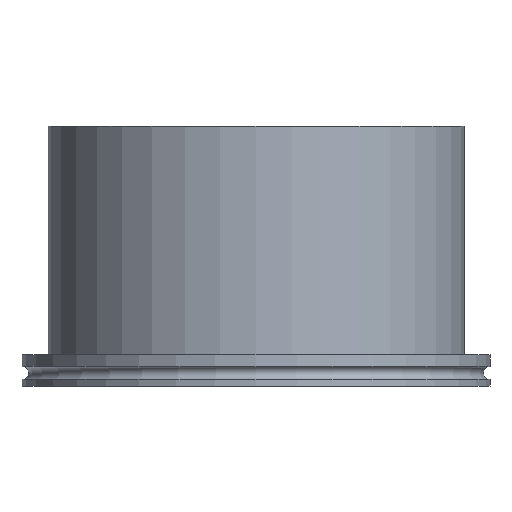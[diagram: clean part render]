
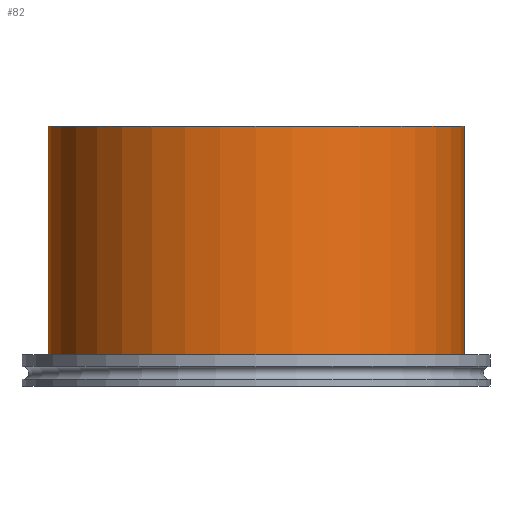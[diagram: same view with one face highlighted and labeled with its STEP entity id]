
A CAD part, front view. The second image highlights one B-rep face of the part: STEP entity #82.
In plain terms, the highlighted cylindrical face has radius 80 mm (diameter 160 mm), a full revolution.
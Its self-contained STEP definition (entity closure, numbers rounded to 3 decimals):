
#82 = ADVANCED_FACE( '', ( #150, #151 ), #152, .T. );
#150 = FACE_OUTER_BOUND( '', #228, .T. );
#151 = FACE_OUTER_BOUND( '', #229, .T. );
#152 = CYLINDRICAL_SURFACE( '', #230, 80. );
#228 = EDGE_LOOP( '', ( #294 ) );
#229 = EDGE_LOOP( '', ( #295 ) );
#230 = AXIS2_PLACEMENT_3D( '', #296, #297, #298 );
#294 = ORIENTED_EDGE( '', *, *, #391, .T. );
#295 = ORIENTED_EDGE( '', *, *, #392, .F. );
#296 = CARTESIAN_POINT( '', ( 0., 100.5, 0. ) );
#297 = DIRECTION( '', ( 0., 1., 0. ) );
#298 = DIRECTION( '', ( 0., 0., -1. ) );
#391 = EDGE_CURVE( '', #423, #423, #424, .T. );
#392 = EDGE_CURVE( '', #425, #425, #426, .T. );
#423 = VERTEX_POINT( '', #471 );
#424 = CIRCLE( '', #472, 80. );
#425 = VERTEX_POINT( '', #473 );
#426 = CIRCLE( '', #474, 80. );
#471 = CARTESIAN_POINT( '', ( 0., 96.5, -80. ) );
#472 = AXIS2_PLACEMENT_3D( '', #518, #519, #520 );
#473 = CARTESIAN_POINT( '', ( 0., 4., -80. ) );
#474 = AXIS2_PLACEMENT_3D( '', #521, #522, #523 );
#518 = CARTESIAN_POINT( '', ( 0., 96.5, 0. ) );
#519 = DIRECTION( '', ( 0., -1., 0. ) );
#520 = DIRECTION( '', ( 0., 0., -1. ) );
#521 = CARTESIAN_POINT( '', ( 0., 4., 0. ) );
#522 = DIRECTION( '', ( 0., -1., 0. ) );
#523 = DIRECTION( '', ( 0., 0., -1. ) );
